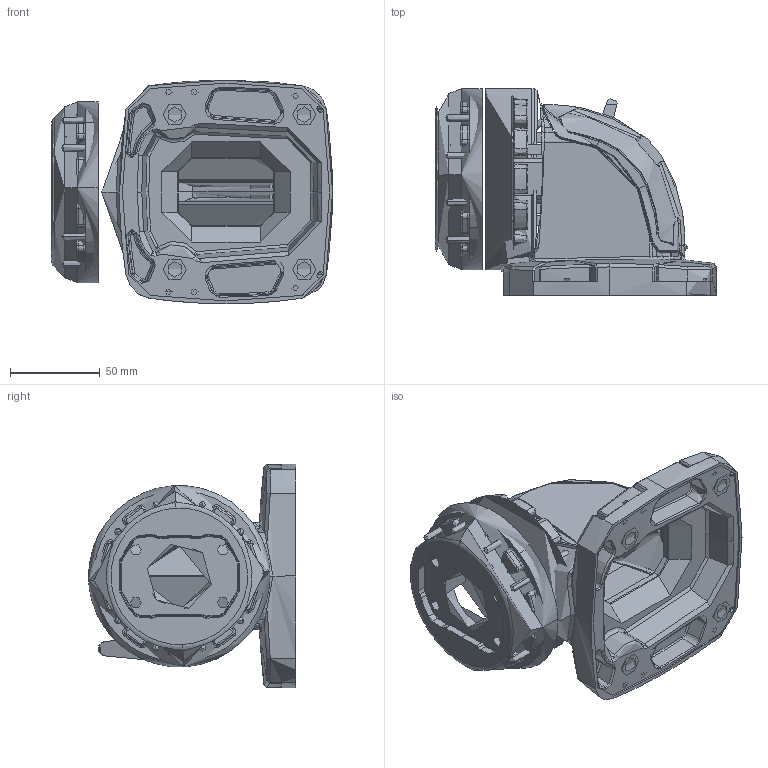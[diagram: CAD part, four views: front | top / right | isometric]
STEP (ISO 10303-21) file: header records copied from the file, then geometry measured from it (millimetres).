
FILE_DESCRIPTION (( 'STEP AP203' ), '1' );
FILE_NAME ('TP.045.0674.STEP', '2026-09-30T08:28:38', ( '' ), ( '' ), 'SwSTEP 2.0', 'SolidWorks 2015', '' );
FILE_SCHEMA (( 'CONFIG_CONTROL_DESIGN' ));
Length unit declared in the file: millimetre
Products named in the file (12): TP.45.0674 (3); TP.045.800; Part3^TP.045.800; AynalamaTP.45.0674 (3); AynalamaTP.45.0674 (1_2); TP.045.Disk; kapak vida; TP.045.Kapak; TP.045.0674; TP.045.Serrated Washer; TP.45.0674 (1_2)
Assembly tree (11 placements, depth 3):
  Part3^TP.045.800
  TP.045.0674
    TP.045.800
      TP.045.800
      TP.045.Kapak
      TP.45.0674 (1_2)
      TP.45.0674 (3)
      AynalamaTP.45.0674 (1_2)
      AynalamaTP.45.0674 (3)
    TP.045.Disk
    kapak vida  x2
    TP.045.Serrated Washer
Bounding box: 156.21 x 115.36 x 124.28 mm (x, y, z)
Topology: 9 solids, 22 shells, 3748 faces, 9039 edges, 5335 vertices
Faces by surface type: bspline 2085, cylinder 621, plane 442, torus 385, cone 167, sphere 48
Entity records: 226329 total; most frequent: CARTESIAN_POINT 155454, ORIENTED_EDGE 17854, EDGE_CURVE 8927, DIRECTION 8375, B_SPLINE_CURVE_WITH_KNOTS 5371, VERTEX_POINT 5296, EDGE_LOOP 3827, ADVANCED_FACE 3718
